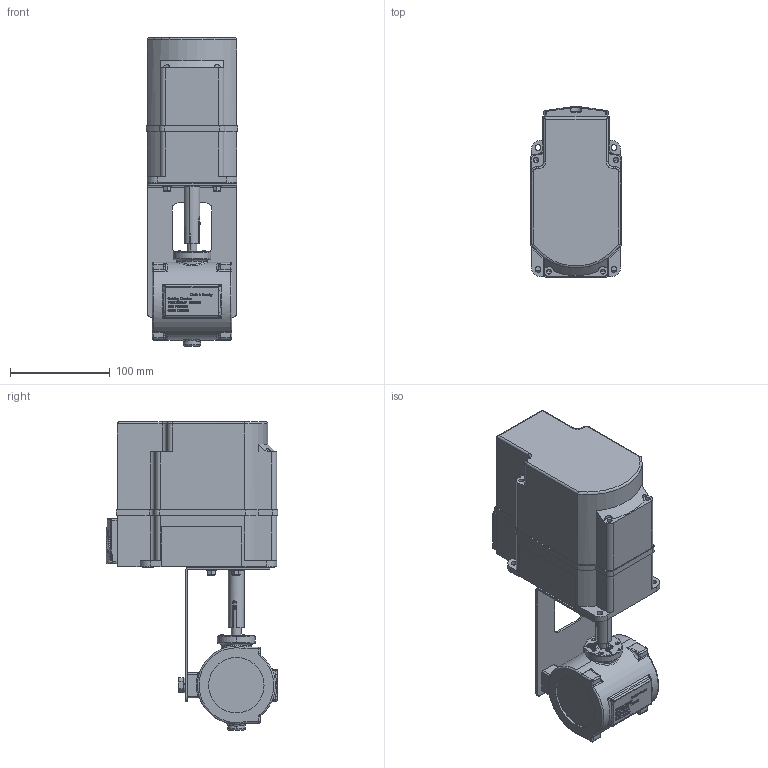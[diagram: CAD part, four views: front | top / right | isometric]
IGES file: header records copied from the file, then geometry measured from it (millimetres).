
Global section: file name: No Iges File Name specified; native system: AutoDesk Inventor R12.0; preprocessor: AutoDesk Inventor Iges Exporter R12.0; date: 20110328.093640; units: millimetre
Bounding box: 92 x 171.99 x 309 mm (x, y, z)
Volume: 2276523.4 mm3; surface area: 189816.3 mm2
Topology: 1 solids, 15 shells, 2866 faces, 7651 edges, 4963 vertices
Faces by surface type: plane 1488, bspline 1004, cylinder 189, revolution 89, cone 47, torus 35, sphere 14
Full cylindrical faces by diameter (mm): 9.2 x3, 14.8 x2
